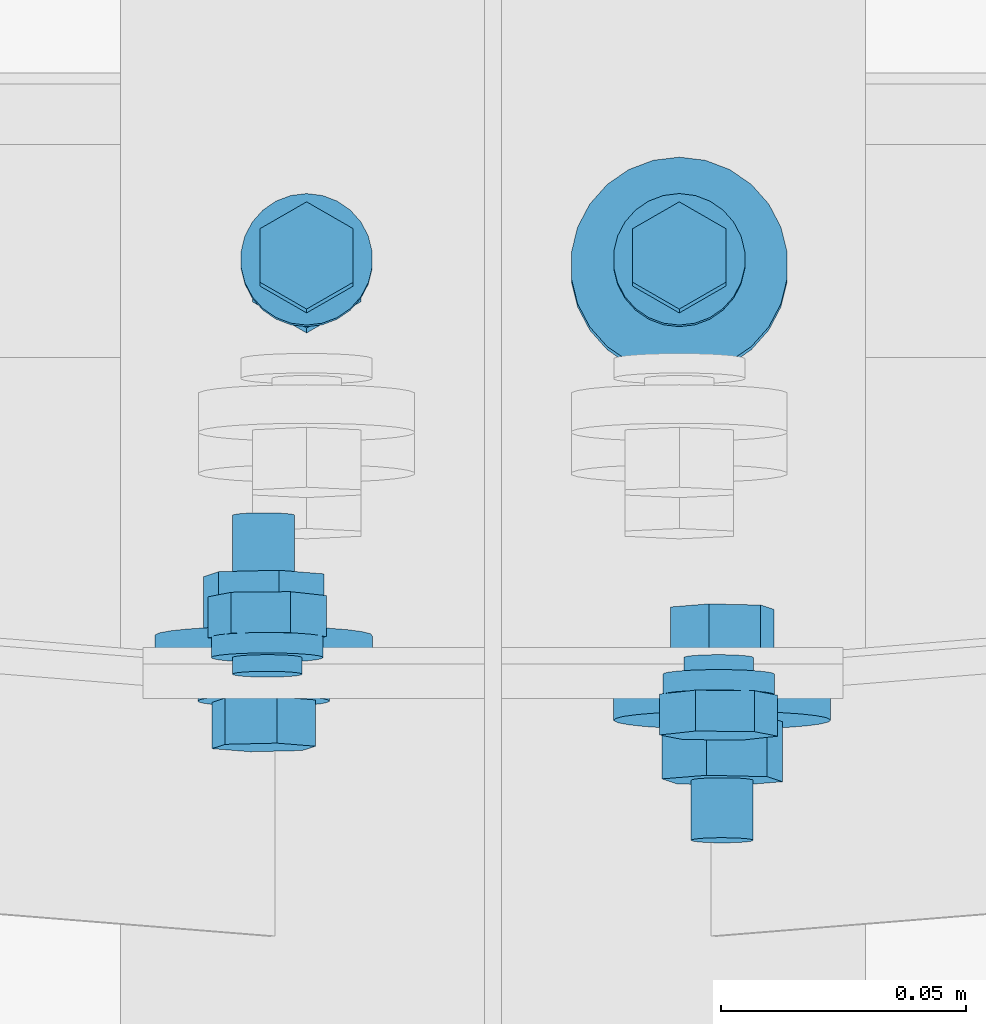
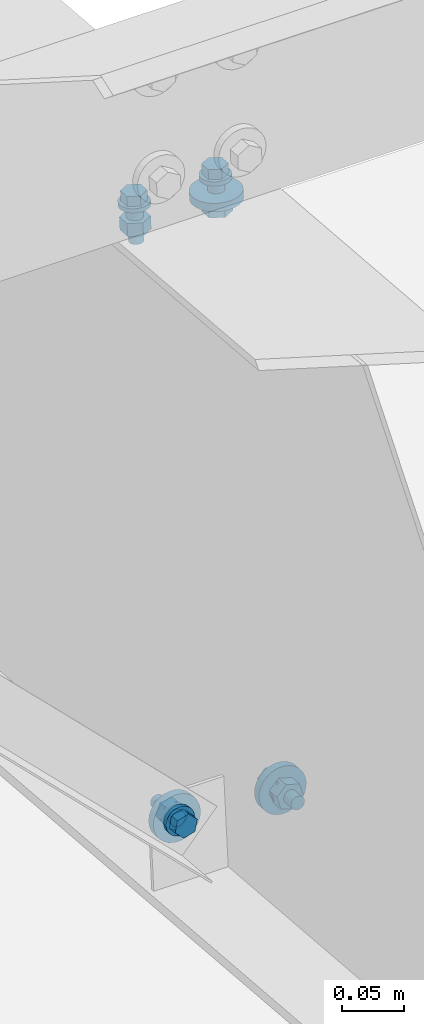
# One storey, part 160 of 185: 6 mechanical fasteners, 4 elements without a shape of their own.
"""IFC2X3 building model written with IfcOpenShell, lengths in millimetres."""

import ifcopenshell
import ifcopenshell.guid

model = None  # the IFC model being written
_history = None  # IfcOwnerHistory: only IFC2X3 demands one
_inside = {}  # id of a spatial element -> (the spatial element, [elements in it])
_under = {}  # id of a project, library or spatial element -> (it, [spatial elements below it])
_declared = {}  # id of a project -> (the project, [libraries it declares])
_typed = {}  # id of a type object -> (the type object, [elements of that type])
_made_of = {}  # id of a material, layer set ... -> (it, [elements and type objects made of it])


def new_model(schema):
    """Start an empty IFC model of exactly this schema.

    Asked for "IFC4X3", IfcOpenShell would pick the latest addendum, in which some entities
    have other attributes; the version numbers below select the first issue.
    IFC2X3 requires an IfcOwnerHistory on every rooted entity: one is made here for all.
    """
    global model, _history
    if schema == "IFC4X3":
        model = ifcopenshell.file(schema_version=(4, 3, 0, 0))
    else:
        model = ifcopenshell.file(schema=schema)
    _inside.clear()
    _under.clear()
    _declared.clear()
    _typed.clear()
    _made_of.clear()
    _history = None
    if model.schema == "IFC2X3":
        org = make("IfcOrganization", Name="unknown")
        user = make(
            "IfcPersonAndOrganization",
            ThePerson=make("IfcPerson", FamilyName="unknown"),
            TheOrganization=org,
        )
        app = make(
            "IfcApplication",
            ApplicationDeveloper=org,
            Version="unknown",
            ApplicationFullName="unknown",
            ApplicationIdentifier="unknown",
        )
        _history = make(
            "IfcOwnerHistory",
            OwningUser=user,
            OwningApplication=app,
            ChangeAction="ADDED",
            CreationDate=0,
        )
    return model


def make(cls, **values):
    """One entity of the class cls with the attributes given. An attribute that is None is left unset."""
    return model.create_entity(
        cls, **{name: value for name, value in values.items() if value is not None}
    )


def rooted(cls, **values):
    """An entity with a GlobalId (a new one), such as an element, a storey or a relation."""
    return make(cls, GlobalId=ifcopenshell.guid.new(), OwnerHistory=_history, **values)


def si_unit(unit_type, name, prefix=None):
    """IfcSIUnit, for example si_unit("LENGTHUNIT", "METRE", prefix="MILLI")."""
    return make("IfcSIUnit", UnitType=unit_type, Prefix=prefix, Name=name)


def assignment(units):
    """IfcUnitAssignment: the units of a project."""
    return None if units is None else make("IfcUnitAssignment", Units=units)


def point(xyz):
    """IfcCartesianPoint."""
    return None if xyz is None else make("IfcCartesianPoint", Coordinates=xyz)


def direction(xyz):
    """IfcDirection."""
    return None if xyz is None else make("IfcDirection", DirectionRatios=xyz)


def frame(location, z_axis=None, x_axis=None):
    """IfcAxis2Placement3D, a coordinate frame: its origin and axes. An axis left out is left unset."""
    return make(
        "IfcAxis2Placement3D",
        Location=point(location),
        Axis=direction(z_axis),
        RefDirection=direction(x_axis),
    )


def frame_2d(location, x_axis=None):
    """IfcAxis2Placement2D, a coordinate frame in the plane: its origin and x axis."""
    return make(
        "IfcAxis2Placement2D", Location=point(location), RefDirection=direction(x_axis)
    )


def origin_with_axes():
    """The frame at (0, 0, 0) with the z axis (0, 0, 1) and the x axis (1, 0, 0) written out."""
    return frame((0.0, 0.0, 0.0), z_axis=(0.0, 0.0, 1.0), x_axis=(1.0, 0.0, 0.0))


def origin_2d_with_axis():
    """The frame at (0, 0) in the plane with the x axis (1, 0) written out."""
    return frame_2d((0.0, 0.0), x_axis=(1.0, 0.0))


def place(relative_to, where):
    """IfcLocalPlacement: puts the frame where relative to a parent placement (None: the world)."""
    return make(
        "IfcLocalPlacement", PlacementRelTo=relative_to, RelativePlacement=where
    )


def context(
    kind, dimensions, precision=None, world=None, true_north=None, identifier=None
):
    """IfcGeometricRepresentationContext, for example the 3D "Model" context."""
    return make(
        "IfcGeometricRepresentationContext",
        ContextIdentifier=identifier,
        ContextType=kind,
        CoordinateSpaceDimension=dimensions,
        Precision=precision,
        WorldCoordinateSystem=world,
        TrueNorth=true_north,
    )


def subcontext(parent, identifier, kind, view, scale=None):
    """IfcGeometricRepresentationSubContext, for example "Body" below "Model"."""
    return make(
        "IfcGeometricRepresentationSubContext",
        ContextIdentifier=identifier,
        ContextType=kind,
        ParentContext=parent,
        TargetScale=scale,
        TargetView=view,
    )


def project(units=None, contexts=None):
    """IfcProject with its units and contexts."""
    return rooted(
        "IfcProject",
        Name="project",
        RepresentationContexts=contexts,
        UnitsInContext=assignment(units),
    )


def spatial(cls, under=None, at=None, **own):
    """A site, building, storey or space (cls), placed at a placement, below another one or the project."""
    s = rooted(cls, ObjectPlacement=at, **own)
    if under is not None:
        _under.setdefault(under.id(), (under, []))[1].append(s)
    return s


def polyline(points):
    """IfcPolyline through the points."""
    return make("IfcPolyline", Points=[point(p) for p in points])


def profile(cls, at=None, kind="AREA", **sizes):
    """A parametric profile (cls). Its sizes go by their IFC names, for example OverallWidth=200.0."""
    return make(cls, ProfileType=kind, Position=at, **sizes)


def circle(**sizes):
    """IfcCircleProfileDef."""
    return profile("IfcCircleProfileDef", **sizes)


def outline(outer, holes=None, kind="AREA"):
    """IfcArbitraryClosedProfileDef: a profile drawn as a closed curve; with holes, ...WithVoids."""
    if holes is None:
        return make("IfcArbitraryClosedProfileDef", ProfileType=kind, OuterCurve=outer)
    return make(
        "IfcArbitraryProfileDefWithVoids",
        ProfileType=kind,
        OuterCurve=outer,
        InnerCurves=holes,
    )


def extrude(swept, where, along, depth):
    """IfcExtrudedAreaSolid: the profile swept, set in the frame where, extruded along a direction by depth."""
    return make(
        "IfcExtrudedAreaSolid",
        SweptArea=swept,
        Position=where,
        ExtrudedDirection=direction(along),
        Depth=depth,
    )


def shape(context_of_items, identifier, shape_type, items):
    """IfcShapeRepresentation: the items that make up one representation, for example the "Body"."""
    return make(
        "IfcShapeRepresentation",
        ContextOfItems=context_of_items,
        RepresentationIdentifier=identifier,
        RepresentationType=shape_type,
        Items=items,
    )


def source(mapping_origin, context_of_items, identifier, shape_type, items):
    """IfcRepresentationMap: a shape defined once, which mapped items show again and again."""
    return make(
        "IfcRepresentationMap",
        MappingOrigin=mapping_origin,
        MappedRepresentation=shape(context_of_items, identifier, shape_type, items),
    )


def transform(
    local_origin,
    x_axis=None,
    y_axis=None,
    z_axis=None,
    scale=None,
    scale2=None,
    scale3=None,
    uniform=True,
):
    """IfcCartesianTransformationOperator3D, or its non-uniform kind. x_axis, y_axis, z_axis: its Axis1, 2, 3."""
    if uniform:
        return make(
            "IfcCartesianTransformationOperator3D",
            Axis1=direction(x_axis),
            Axis2=direction(y_axis),
            LocalOrigin=point(local_origin),
            Scale=scale,
            Axis3=direction(z_axis),
        )
    return make(
        "IfcCartesianTransformationOperator3DnonUniform",
        Axis1=direction(x_axis),
        Axis2=direction(y_axis),
        LocalOrigin=point(local_origin),
        Scale=scale,
        Axis3=direction(z_axis),
        Scale2=scale2,
        Scale3=scale3,
    )


def mapped(mapping_source, mapping_target):
    """IfcMappedItem: shows the shape of a source again, moved by a transform."""
    return make(
        "IfcMappedItem", MappingSource=mapping_source, MappingTarget=mapping_target
    )


def material(Name=None, Category=None):
    """IfcMaterial."""
    return make("IfcMaterial", Name=Name, Category=Category)


def made_of(thing, what):
    """Note that an element or type object is made of a material, layer set ...; save() writes the relation."""
    if what is not None:
        _made_of.setdefault(what.id(), (what, []))[1].append(thing)
    return thing


def type_object(cls, material=None, **own):
    """A type object (cls), such as IfcWallType, which elements share."""
    return made_of(rooted(cls, **own), material)


def element(
    cls,
    number,
    at=None,
    inside=None,
    cuts=None,
    type_object=None,
    material=None,
    context=None,
    identifier="Body",
    shape_type=None,
    held_by="IfcProductDefinitionShape",
    body=None,
    shapes=None,
    **own,
):
    """One element of the class cls, such as IfcWall. Its Tag is "e" and its number.

    at: its placement. inside: the storey or other place that contains it. cuts: it is an
    opening in that element (IfcRelVoidsElement). A single representation is given by context,
    identifier, shape_type and body (its items); several are given by shapes. held_by: the class
    of the entity that holds the representations. save() writes the other relations.
    """
    e = rooted(cls, Tag="e%d" % number, ObjectPlacement=at, **own)
    if body is not None:
        shapes = [shape(context, identifier, shape_type, body)]
    if shapes is not None:
        e.Representation = make(held_by, Representations=shapes)
    if inside is not None:
        _inside.setdefault(inside.id(), (inside, []))[1].append(e)
    if cuts is not None:
        rooted(
            "IfcRelVoidsElement", RelatingBuildingElement=cuts, RelatedOpeningElement=e
        )
    if type_object is not None:
        _typed.setdefault(type_object.id(), (type_object, []))[1].append(e)
    return made_of(e, material)


def aggregate(whole, parts):
    """IfcRelAggregates: a whole, such as a stair, and the parts it consists of."""
    return rooted("IfcRelAggregates", RelatingObject=whole, RelatedObjects=parts)


def save(model, path):
    """Write the relations noted so far, then the file.

    IfcRelAggregates (storeys below a building ...), IfcRelContainedInSpatialStructure (elements
    in a storey), IfcRelDefinesByType, IfcRelAssociatesMaterial and IfcRelDeclares: one each for
    every whole, place, type object, material and project.
    """
    for whole, parts in _under.values():
        aggregate(whole, parts)
    for where, things in _inside.values():
        rooted(
            "IfcRelContainedInSpatialStructure",
            RelatedElements=things,
            RelatingStructure=where,
        )
    for kind, things in _typed.values():
        rooted("IfcRelDefinesByType", RelatedObjects=things, RelatingType=kind)
    for what, things in _made_of.values():
        rooted("IfcRelAssociatesMaterial", RelatedObjects=things, RelatingMaterial=what)
    for by, libraries in _declared.values():
        rooted("IfcRelDeclares", RelatingContext=by, RelatedDefinitions=libraries)
    model.write(path)


model = new_model("IFC2X3")

# Units and contexts
model_context = context("Model", 3, precision=1e-05, world=origin_with_axes())
body_context = subcontext(model_context, "Body", "Model", "MODEL_VIEW")
ifc_project = project(units=[si_unit("LENGTHUNIT", "METRE", prefix="MILLI"), si_unit("AREAUNIT", "SQUARE_METRE"), si_unit("VOLUMEUNIT", "CUBIC_METRE"), si_unit("MASSUNIT", "GRAM", prefix="KILO"), si_unit("TIMEUNIT", "SECOND"), si_unit("PLANEANGLEUNIT", "RADIAN"), si_unit("SOLIDANGLEUNIT", "STERADIAN"), si_unit("THERMODYNAMICTEMPERATUREUNIT", "DEGREE_CELSIUS"), si_unit("LUMINOUSINTENSITYUNIT", "LUMEN")], contexts=[model_context])

# Site, building, storey
site_placement = place(None, origin_with_axes())
site = spatial("IfcSite", under=ifc_project, at=site_placement, Name="Undefined", CompositionType="ELEMENT")
building_placement = place(site_placement, origin_with_axes())
building = spatial("IfcBuilding", under=site, at=building_placement, Name="Undefined", CompositionType="ELEMENT")
storey_placement = place(building_placement, origin_with_axes())
storey = spatial("IfcBuildingStorey", under=building, at=storey_placement, Name="Undefined", CompositionType="ELEMENT", Elevation=0.0)

# Assembly, mechanical fastener
assembly_1_placement = place(storey_placement, origin_with_axes())
assembly_1 = element("IfcElementAssembly", 1, at=assembly_1_placement, inside=storey, Name="Steel Assembly", AssemblyPlace="NOTDEFINED", PredefinedType="RIGID_FRAME")
ifc_material_1 = material(Name="Undefined")
discrete_accessory_type = type_object("IfcDiscreteAccessoryType", Name="Bolt assembly")
shared_shape_1 = source(origin_with_axes(), body_context, "Body", "SweptSolid", [
    extrude(circle(Radius=7.14374971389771, at=origin_2d_with_axis()), frame((0.0, -1.59000001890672, 0.0), z_axis=(0.0, 1.0, 0.0), x_axis=(1.0, 0.0, 0.0)), (0.0, 0.0, 1.0), 1.7),
    extrude(outline(polyline([(10.9985221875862, 0.0), (5.4992610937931, 9.52499961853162), (-5.4992610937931, 9.52499961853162), (-10.9985221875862, 0.0), (-5.4992610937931, -9.52499961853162), (5.4992610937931, -9.52499961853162), (10.9985221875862, 0.0)])), frame((0.0, -15.0837496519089, 0.0), z_axis=(0.0, 1.0, 0.0), x_axis=(1.0, 0.0, 0.0)), (0.0, 0.0, 1.0), 9.5),
    extrude(circle(Radius=6.34999990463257, at=origin_2d_with_axis()), frame((0.0, -5.5587500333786, 0.0), z_axis=(0.0, 1.0, 0.0), x_axis=(1.0, 0.0, 0.0)), (0.0, 0.0, 1.0), 38.1),
    extrude(circle(Radius=13.4937496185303, at=origin_2d_with_axis()), frame((0.0, -5.5587500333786, 0.0), z_axis=(0.0, 1.0, 0.0), x_axis=(1.0, 0.0, 0.0)), (0.0, 0.0, 1.0), 4.0),
    extrude(circle(Radius=22.2250003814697, at=origin_2d_with_axis()), frame((0.0, 0.0, 0.0), z_axis=(0.0, 1.0, 0.0), x_axis=(1.0, 0.0, 0.0)), (0.0, 0.0, 1.0), 7.9),
    extrude(outline(polyline([(12.8316099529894, 0.0), (6.4158049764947, 11.1125001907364), (-6.4158049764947, 11.1125001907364), (-12.8316099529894, 0.0), (-6.4158049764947, -11.1125001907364), (6.4158049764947, -11.1125001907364), (12.8316099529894, 0.0)])), frame((0.0, 7.93750000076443, 0.0), z_axis=(0.0, 1.0, 0.0), x_axis=(1.0, 0.0, 0.0)), (0.0, 0.0, 1.0), 12.3),
])
mechanical_fastener_1_placement = place(assembly_1_placement, frame((30052.1255043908, 23836.3334696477, 6014.27804871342), z_axis=(-0.697745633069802, -0.0594892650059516, -0.713871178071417), x_axis=(-0.716345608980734, 0.0579446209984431, 0.6953354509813)))
mechanical_fastener_1 = element("IfcMechanicalFastener", 2, at=mechanical_fastener_1_placement, type_object=discrete_accessory_type, material=ifc_material_1, Name="Bolt assembly", NominalDiameter=12.6999998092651, NominalLength=38.0999984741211, context=body_context, shape_type="MappedRepresentation", body=[
    mapped(shared_shape_1, transform((0.0, 0.0, 0.0))),
])
aggregate(assembly_1, [mechanical_fastener_1])

assembly_2_placement = place(storey_placement, origin_with_axes())
assembly_2 = element("IfcElementAssembly", 3, at=assembly_2_placement, inside=storey, Name="Steel Assembly", AssemblyPlace="NOTDEFINED", PredefinedType="RIGID_FRAME")
shared_shape_2 = source(origin_with_axes(), body_context, "Body", "SweptSolid", [
    extrude(circle(Radius=7.14374971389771, at=origin_2d_with_axis()), frame((0.0, 0.0, 0.0), z_axis=(0.0, 1.0, 0.0), x_axis=(1.0, 0.0, 0.0)), (0.0, 0.0, 1.0), 1.7),
    extrude(outline(polyline([(10.9985221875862, 0.0), (5.4992610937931, 9.52499961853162), (-5.4992610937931, 9.52499961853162), (-10.9985221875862, 0.0), (-5.4992610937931, -9.52499961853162), (5.4992610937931, -9.52499961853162), (10.9985221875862, 0.0)])), frame((0.0, -13.4937496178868, 0.0), z_axis=(0.0, 1.0, 0.0), x_axis=(1.0, 0.0, 0.0)), (0.0, 0.0, 1.0), 9.5),
    extrude(circle(Radius=6.34999990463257, at=origin_2d_with_axis()), frame((0.0, -3.96874999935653, 0.0), z_axis=(0.0, 1.0, 0.0), x_axis=(1.0, 0.0, 0.0)), (0.0, 0.0, 1.0), 38.1),
    extrude(circle(Radius=13.4937496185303, at=origin_2d_with_axis()), frame((0.0, -3.96874999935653, 0.0), z_axis=(0.0, 1.0, 0.0), x_axis=(1.0, 0.0, 0.0)), (0.0, 0.0, 1.0), 4.0),
    extrude(circle(Radius=22.2250003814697, at=origin_2d_with_axis()), frame((0.0, 1.5900000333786, 0.0), z_axis=(0.0, 1.0, 0.0), x_axis=(1.0, 0.0, 0.0)), (0.0, 0.0, 1.0), 7.9),
    extrude(outline(polyline([(12.8316099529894, 0.0), (6.4158049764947, 11.1125001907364), (-6.4158049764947, 11.1125001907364), (-12.8316099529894, 0.0), (-6.4158049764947, -11.1125001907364), (6.4158049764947, -11.1125001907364), (12.8316099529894, 0.0)])), frame((0.0, 9.5275000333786, 0.0), z_axis=(0.0, 1.0, 0.0), x_axis=(1.0, 0.0, 0.0)), (0.0, 0.0, 1.0), 12.3),
])
mechanical_fastener_2_placement = place(assembly_2_placement, frame((30145.8744956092, 23836.3334696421, 6014.27804871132), z_axis=(0.697745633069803, -0.0594892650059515, -0.713871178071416), x_axis=(0.716345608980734, 0.0579446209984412, 0.6953354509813)))
mechanical_fastener_2 = element("IfcMechanicalFastener", 4, at=mechanical_fastener_2_placement, type_object=discrete_accessory_type, material=ifc_material_1, Name="Bolt assembly", NominalDiameter=12.6999998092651, NominalLength=38.0999984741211, context=body_context, shape_type="MappedRepresentation", body=[
    mapped(shared_shape_2, transform((0.0, 0.0, 0.0))),
])
aggregate(assembly_2, [mechanical_fastener_2])

# Assembly, mechanical fasteners
assembly_3_placement = place(storey_placement, origin_with_axes())
assembly_3 = element("IfcElementAssembly", 5, at=assembly_3_placement, inside=storey, Name="Steel Assembly", AssemblyPlace="NOTDEFINED", PredefinedType="RIGID_FRAME")
ifc_material_2 = material(Name="7990")
shared_shape_3 = source(origin_with_axes(), body_context, "Body", "SweptSolid", [
    extrude(circle(Radius=7.14374971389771, at=origin_2d_with_axis()), frame((0.0, -3.41600000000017, 0.0), z_axis=(0.0, 1.0, 0.0), x_axis=(1.0, 0.0, 0.0)), (0.0, 0.0, 1.0), 3.5),
    extrude(circle(Radius=11.4299998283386, at=origin_2d_with_axis()), frame((0.0, 0.0, 0.0), z_axis=(0.0, 1.0, 0.0), x_axis=(1.0, 0.0, 0.0)), (0.0, 0.0, 1.0), 4.2),
    extrude(outline(polyline([(12.171698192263, 0.0), (6.08584909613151, 10.5409998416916), (-6.08584909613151, 10.5409998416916), (-12.171698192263, 0.0), (-6.08584909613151, -10.5409998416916), (6.08584909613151, -10.5409998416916), (12.171698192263, 0.0)])), frame((0.0, 4.1909999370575, 0.0), z_axis=(0.0, 1.0, 0.0), x_axis=(1.0, 0.0, 0.0)), (0.0, 0.0, 1.0), 8.4),
])
mechanical_fastener_3_placement = place(assembly_3_placement, frame((30145.15815, 23836.2755250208, 6013.58271325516), z_axis=(-0.921635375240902, -0.0322263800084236, -0.386716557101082), x_axis=(0.388056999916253, -0.0765376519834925, -0.918451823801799)))
mechanical_fastener_3 = element("IfcMechanicalFastener", 6, at=mechanical_fastener_3_placement, type_object=discrete_accessory_type, material=ifc_material_2, Name="Bolt assembly", NominalDiameter=12.6999998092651, NominalLength=38.0999984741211, context=body_context, shape_type="MappedRepresentation", body=[
    mapped(shared_shape_3, transform((0.0, 0.0, 0.0))),
])
shared_shape_4 = source(origin_with_axes(), body_context, "Body", "SweptSolid", [
    extrude(circle(Radius=7.14374971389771, at=origin_2d_with_axis()), frame((0.0, 0.0, 0.0), z_axis=(0.0, 1.0, 0.0), x_axis=(1.0, 0.0, 0.0)), (0.0, 0.0, 1.0), 3.5),
    extrude(circle(Radius=11.4299998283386, at=origin_2d_with_axis()), frame((0.0, 3.41600000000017, 0.0), z_axis=(0.0, 1.0, 0.0), x_axis=(1.0, 0.0, 0.0)), (0.0, 0.0, 1.0), 4.2),
    extrude(outline(polyline([(12.171698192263, 0.0), (6.08584909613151, 10.5409998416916), (-6.08584909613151, 10.5409998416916), (-12.171698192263, 0.0), (-6.08584909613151, -10.5409998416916), (6.08584909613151, -10.5409998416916), (12.171698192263, 0.0)])), frame((0.0, 7.60699993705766, 0.0), z_axis=(0.0, 1.0, 0.0), x_axis=(1.0, 0.0, 0.0)), (0.0, 0.0, 1.0), 8.4),
])
mechanical_fastener_4_placement = place(assembly_3_placement, frame((30052.84185, 23836.2755250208, 6013.58271325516), z_axis=(0.921635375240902, -0.0322263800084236, -0.386716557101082), x_axis=(-0.388056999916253, -0.0765376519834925, -0.918451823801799)))
mechanical_fastener_4 = element("IfcMechanicalFastener", 7, at=mechanical_fastener_4_placement, type_object=discrete_accessory_type, material=ifc_material_2, Name="Bolt assembly", NominalDiameter=12.6999998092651, NominalLength=38.0999984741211, context=body_context, shape_type="MappedRepresentation", body=[
    mapped(shared_shape_4, transform((0.0, 0.0, 0.0))),
])
aggregate(assembly_3, [mechanical_fastener_4, mechanical_fastener_3])

assembly_4_placement = place(storey_placement, origin_with_axes())
assembly_4 = element("IfcElementAssembly", 8, at=assembly_4_placement, inside=storey, Name="Steel Assembly", AssemblyPlace="NOTDEFINED", PredefinedType="RIGID_FRAME")
shared_shape_5 = source(origin_with_axes(), body_context, "Body", "SweptSolid", [
    extrude(circle(Radius=7.14374971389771, at=origin_2d_with_axis()), frame((0.0, -0.0238014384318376, 0.0), z_axis=(0.0, 1.0, 0.0), x_axis=(1.0, 0.0, 0.0)), (0.0, 0.0, 1.0), 8.0),
    extrude(circle(Radius=7.14374971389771, at=origin_2d_with_axis()), frame((0.0, -3.08000006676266, 0.0), z_axis=(0.0, 1.0, 0.0), x_axis=(1.0, 0.0, 0.0)), (0.0, 0.0, 1.0), 3.2),
    extrude(circle(Radius=7.14374971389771, at=origin_2d_with_axis()), frame((0.0, -3.08000006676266, 0.0), z_axis=(0.0, 1.0, 0.0), x_axis=(1.0, 0.0, 0.0)), (0.0, 0.0, 1.0), 3.2),
    extrude(outline(polyline([(10.9985221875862, 0.0), (5.4992610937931, 9.52499961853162), (-5.4992610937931, 9.52499961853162), (-10.9985221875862, 0.0), (-5.4992610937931, -9.52499961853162), (5.4992610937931, -9.52499961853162), (10.9985221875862, 0.0)])), frame((0.0, -16.6737496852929, 0.0), z_axis=(0.0, 1.0, 0.0), x_axis=(1.0, 0.0, 0.0)), (0.0, 0.0, 1.0), 9.5),
    extrude(circle(Radius=6.34999990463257, at=origin_2d_with_axis()), frame((0.0, -7.14875006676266, 0.0), z_axis=(0.0, 1.0, 0.0), x_axis=(1.0, 0.0, 0.0)), (0.0, 0.0, 1.0), 38.1),
    extrude(circle(Radius=13.4937496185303, at=origin_2d_with_axis()), frame((0.0, -7.14875006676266, 0.0), z_axis=(0.0, 1.0, 0.0), x_axis=(1.0, 0.0, 0.0)), (0.0, 0.0, 1.0), 4.0),
    extrude(circle(Radius=22.2250003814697, at=origin_2d_with_axis()), frame((0.0, 7.95019856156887, 0.0), z_axis=(0.0, 1.0, 0.0), x_axis=(1.0, 0.0, 0.0)), (0.0, 0.0, 1.0), 7.9),
    extrude(outline(polyline([(12.8316099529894, 0.0), (6.4158049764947, 11.1125001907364), (-6.4158049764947, 11.1125001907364), (-12.8316099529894, 0.0), (-6.4158049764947, -11.1125001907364), (6.4158049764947, -11.1125001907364), (12.8316099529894, 0.0)])), frame((0.0, 15.8876985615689, 0.0), z_axis=(0.0, 1.0, 0.0), x_axis=(1.0, 0.0, 0.0)), (0.0, 0.0, 1.0), 12.3),
])
mechanical_fastener_5_placement = place(assembly_4_placement, frame((30137.1, 23920.5189522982, 6565.71908714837), z_axis=(-1.0, 0.0, 0.0), x_axis=(0.0, 0.996545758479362, -0.0830454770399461)))
mechanical_fastener_5 = element("IfcMechanicalFastener", 9, at=mechanical_fastener_5_placement, type_object=discrete_accessory_type, material=ifc_material_1, Name="Bolt assembly", NominalDiameter=12.6999998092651, NominalLength=38.0999984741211, context=body_context, shape_type="MappedRepresentation", body=[
    mapped(shared_shape_5, transform((0.0, 0.0, 0.0))),
])
shared_shape_6 = source(origin_with_axes(), body_context, "Body", "SweptSolid", [
    extrude(circle(Radius=7.14374971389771, at=origin_2d_with_axis()), frame((0.0, -0.0238014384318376, 0.0), z_axis=(0.0, 1.0, 0.0), x_axis=(1.0, 0.0, 0.0)), (0.0, 0.0, 1.0), 8.0),
    extrude(circle(Radius=7.14374971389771, at=origin_2d_with_axis()), frame((0.0, -3.08000006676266, 0.0), z_axis=(0.0, 1.0, 0.0), x_axis=(1.0, 0.0, 0.0)), (0.0, 0.0, 1.0), 3.2),
    extrude(circle(Radius=7.14374971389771, at=origin_2d_with_axis()), frame((0.0, -3.08000006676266, 0.0), z_axis=(0.0, 1.0, 0.0), x_axis=(1.0, 0.0, 0.0)), (0.0, 0.0, 1.0), 3.2),
    extrude(outline(polyline([(10.9985221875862, 0.0), (5.4992610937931, 9.52499961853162), (-5.4992610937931, 9.52499961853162), (-10.9985221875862, 0.0), (-5.4992610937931, -9.52499961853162), (5.4992610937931, -9.52499961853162), (10.9985221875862, 0.0)])), frame((0.0, -16.6737496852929, 0.0), z_axis=(0.0, 1.0, 0.0), x_axis=(1.0, 0.0, 0.0)), (0.0, 0.0, 1.0), 9.5),
    extrude(circle(Radius=6.34999990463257, at=origin_2d_with_axis()), frame((0.0, -7.14875006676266, 0.0), z_axis=(0.0, 1.0, 0.0), x_axis=(1.0, 0.0, 0.0)), (0.0, 0.0, 1.0), 38.1),
    extrude(circle(Radius=13.4937496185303, at=origin_2d_with_axis()), frame((0.0, -7.14875006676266, 0.0), z_axis=(0.0, 1.0, 0.0), x_axis=(1.0, 0.0, 0.0)), (0.0, 0.0, 1.0), 4.0),
    extrude(outline(polyline([(12.8316099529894, 0.0), (6.4158049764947, 11.1125001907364), (-6.4158049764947, 11.1125001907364), (-12.8316099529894, 0.0), (-6.4158049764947, -11.1125001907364), (6.4158049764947, -11.1125001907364), (12.8316099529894, 0.0)])), frame((0.0, 7.95019856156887, 0.0), z_axis=(0.0, 1.0, 0.0), x_axis=(1.0, 0.0, 0.0)), (0.0, 0.0, 1.0), 12.3),
])
mechanical_fastener_6_placement = place(assembly_4_placement, frame((30060.9, 23920.5189522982, 6565.71908714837), z_axis=(-1.0, 0.0, 0.0), x_axis=(0.0, 0.996545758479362, -0.0830454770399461)))
mechanical_fastener_6 = element("IfcMechanicalFastener", 10, at=mechanical_fastener_6_placement, type_object=discrete_accessory_type, material=ifc_material_1, Name="Bolt assembly", NominalDiameter=12.6999998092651, NominalLength=38.0999984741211, context=body_context, shape_type="MappedRepresentation", body=[
    mapped(shared_shape_6, transform((0.0, 0.0, 0.0))),
])
aggregate(assembly_4, [mechanical_fastener_5, mechanical_fastener_6])

save(model, "model.ifc")
